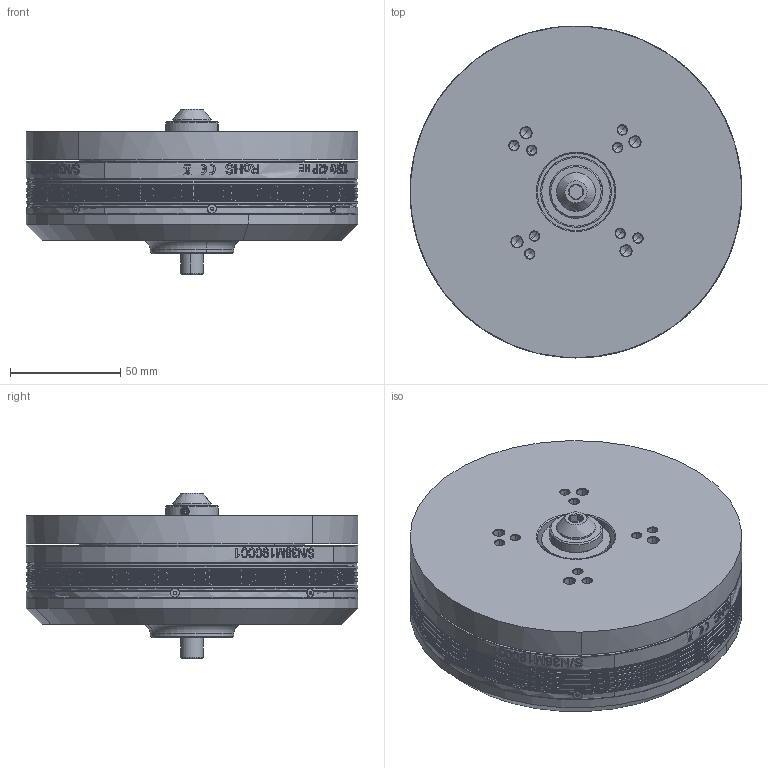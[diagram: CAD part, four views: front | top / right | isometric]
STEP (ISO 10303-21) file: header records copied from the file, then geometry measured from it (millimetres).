
FILE_DESCRIPTION (( 'STEP AP214' ), '1' );
FILE_NAME ('KDE13218-MOTOR-ASSEMBLY.STEP', '2019-04-18T19:15:25', ( '' ), ( '' ), 'SwSTEP 2.0', 'SolidWorks 2016', '' );
FILE_SCHEMA (( 'AUTOMOTIVE_DESIGN' ));
Length unit declared in the file: millimetre
Products named in the file (32): SHIM_SPACER_15MM_X_21MM_X_1MM_A; FLAT_HEAD_SOCKET_HEAD_CAP_SCREW; KDE-D15-SECURITY_RING_ANY; KDE13218-42P-REAR-COVER; KDE13218-42P-SHAFT; BEARING-6902-2RS-D28-D15-W7_ANY; NO-HEAD-M4X5-SCREW; KDE13218-MOTOR-ASSEMBLY; KDE13218_FRONT_COVER; KDE-D15-SECURITY-RING-ASSEMBLY__ASM; KDE13218-BEARING-COVER; BUTTON HEAD SOCKET HEAD CAP SCREW - M10 X 1.5 X 12MM; KDE13218-42P-HOUSING
Assembly tree (20 placements, depth 3):
  SHIM_SPACER_15MM_X_21MM_X_1MM_A
  FLAT_HEAD_SOCKET_HEAD_CAP_SCREW
  FLAT_HEAD_SOCKET_HEAD_CAP_SCREW
  KDE13218-42P-SHAFT
  KDE13218-MOTOR-ASSEMBLY
    KDE13218_FRONT_COVER
    KDE13218-42P-HOUSING
    FLAT_HEAD_SOCKET_HEAD_CAP_SCREW  x7
    KDE13218-42P-REAR-COVER
    KDE13218-42P-SHAFT
    SHIM_SPACER_15MM_X_21MM_X_1MM_A  x2
    BEARING-6902-2RS-D28-D15-W7_ANY
    KDE13218-BEARING-COVER
    KDE-D15-SECURITY-RING-ASSEMBLY__ASM
      KDE-D15-SECURITY_RING_ANY
      NO-HEAD-M4X5-SCREW  x2
    BUTTON HEAD SOCKET HEAD CAP SCREW - M10 X 1.5 X 12MM
Bounding box: 150.2 x 150.2 x 74.7 mm (x, y, z)
Volume: 490105.1 mm3; surface area: 163488.1 mm2
Topology: 19 solids, 19 shells, 1809 faces, 4635 edges, 2942 vertices
Faces by surface type: cylinder 519, bspline 519, plane 409, cone 356, torus 6
Entity records: 118439 total; most frequent: CARTESIAN_POINT 77946, ORIENTED_EDGE 7266, DIRECTION 4839, EDGE_CURVE 3633, VERTEX_POINT 2347, AXIS2_PLACEMENT_3D 1988, B_SPLINE_CURVE_WITH_KNOTS 1659, EDGE_LOOP 1588
